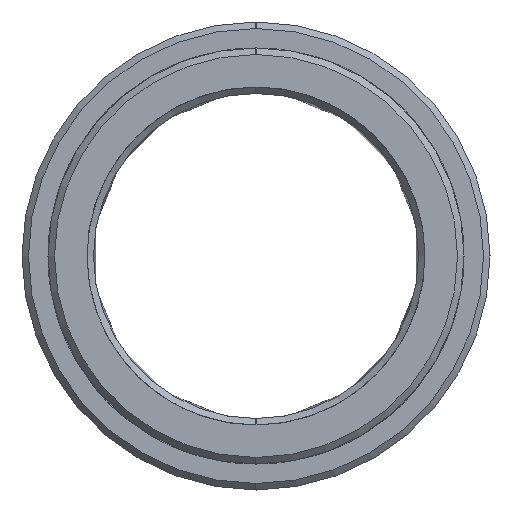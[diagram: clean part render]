
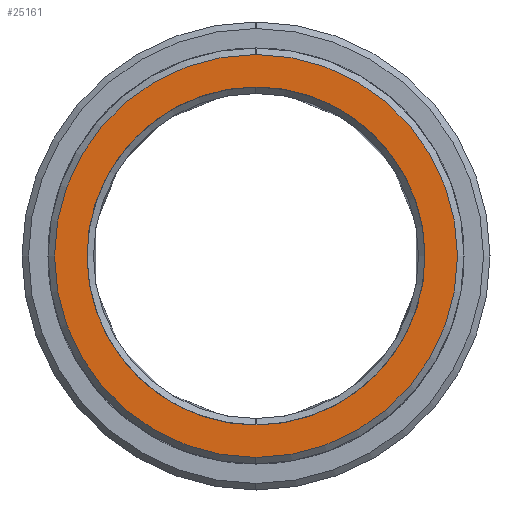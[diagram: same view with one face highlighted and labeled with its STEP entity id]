
A CAD part, left-side view. The second image highlights one B-rep face of the part: STEP entity #25161.
In plain terms, the highlighted planar face has unit normal (1, 0, 0).
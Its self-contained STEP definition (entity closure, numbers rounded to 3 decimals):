
#25078=CARTESIAN_POINT('Axis2P3D Location',(-18.,0.,0.)) ;
#25083=CARTESIAN_POINT('Axis2P3D Location',(-18.,0.,0.)) ;
#25087=CARTESIAN_POINT('Vertex',(-18.,0.,-15.5)) ;
#25089=CARTESIAN_POINT('Vertex',(-18.,0.,15.5)) ;
#25092=CARTESIAN_POINT('Axis2P3D Location',(-18.,0.,0.)) ;
#25102=CARTESIAN_POINT('Control Point',(-18.,0.,13.)) ;
#25103=CARTESIAN_POINT('Control Point',(-18.,1.236,13.)) ;
#25104=CARTESIAN_POINT('Control Point',(-18.,2.473,12.853)) ;
#25105=CARTESIAN_POINT('Control Point',(-18.,3.686,12.559)) ;
#25106=CARTESIAN_POINT('Control Point',(-18.,6.019,11.688)) ;
#25107=CARTESIAN_POINT('Control Point',(-18.,8.083,10.295)) ;
#25108=CARTESIAN_POINT('Control Point',(-18.,9.027,9.478)) ;
#25109=CARTESIAN_POINT('Control Point',(-18.,10.702,7.635)) ;
#25110=CARTESIAN_POINT('Control Point',(-18.,11.899,5.452)) ;
#25111=CARTESIAN_POINT('Control Point',(-18.,12.365,4.293)) ;
#25112=CARTESIAN_POINT('Control Point',(-18.,13.011,1.888)) ;
#25113=CARTESIAN_POINT('Control Point',(-18.,13.075,-0.601)) ;
#25114=CARTESIAN_POINT('Control Point',(-18.,12.958,-1.844)) ;
#25115=CARTESIAN_POINT('Control Point',(-18.,12.432,-4.278)) ;
#25116=CARTESIAN_POINT('Control Point',(-18.,11.349,-6.521)) ;
#25117=CARTESIAN_POINT('Control Point',(-18.,10.676,-7.572)) ;
#25118=CARTESIAN_POINT('Control Point',(-18.,9.093,-9.495)) ;
#25119=CARTESIAN_POINT('Control Point',(-18.,7.104,-10.993)) ;
#25120=CARTESIAN_POINT('Control Point',(-18.,6.025,-11.62)) ;
#25121=CARTESIAN_POINT('Control Point',(-18.,4.188,-12.411)) ;
#25122=CARTESIAN_POINT('Control Point',(-18.,2.243,-12.838)) ;
#25123=CARTESIAN_POINT('Control Point',(-18.,1.499,-12.946)) ;
#25124=CARTESIAN_POINT('Control Point',(-18.,0.749,-13.)) ;
#25125=CARTESIAN_POINT('Control Point',(-18.,0.,-13.)) ;
#25126=CARTESIAN_POINT('Vertex',(-18.,0.,13.)) ;
#25128=CARTESIAN_POINT('Vertex',(-18.,0.,-13.)) ;
#25132=CARTESIAN_POINT('Control Point',(-18.,0.,-13.)) ;
#25133=CARTESIAN_POINT('Control Point',(-18.,-1.236,-13.)) ;
#25134=CARTESIAN_POINT('Control Point',(-18.,-2.473,-12.853)) ;
#25135=CARTESIAN_POINT('Control Point',(-18.,-3.686,-12.559)) ;
#25136=CARTESIAN_POINT('Control Point',(-18.,-6.019,-11.688)) ;
#25137=CARTESIAN_POINT('Control Point',(-18.,-8.083,-10.295)) ;
#25138=CARTESIAN_POINT('Control Point',(-18.,-9.027,-9.478)) ;
#25139=CARTESIAN_POINT('Control Point',(-18.,-10.702,-7.635)) ;
#25140=CARTESIAN_POINT('Control Point',(-18.,-11.899,-5.452)) ;
#25141=CARTESIAN_POINT('Control Point',(-18.,-12.365,-4.293)) ;
#25142=CARTESIAN_POINT('Control Point',(-18.,-13.011,-1.888)) ;
#25143=CARTESIAN_POINT('Control Point',(-18.,-13.075,0.601)) ;
#25144=CARTESIAN_POINT('Control Point',(-18.,-12.958,1.844)) ;
#25145=CARTESIAN_POINT('Control Point',(-18.,-12.432,4.278)) ;
#25146=CARTESIAN_POINT('Control Point',(-18.,-11.349,6.521)) ;
#25147=CARTESIAN_POINT('Control Point',(-18.,-10.676,7.572)) ;
#25148=CARTESIAN_POINT('Control Point',(-18.,-9.093,9.495)) ;
#25149=CARTESIAN_POINT('Control Point',(-18.,-7.104,10.993)) ;
#25150=CARTESIAN_POINT('Control Point',(-18.,-6.025,11.62)) ;
#25151=CARTESIAN_POINT('Control Point',(-18.,-4.188,12.411)) ;
#25152=CARTESIAN_POINT('Control Point',(-18.,-2.243,12.838)) ;
#25153=CARTESIAN_POINT('Control Point',(-18.,-1.499,12.946)) ;
#25154=CARTESIAN_POINT('Control Point',(-18.,-0.749,13.)) ;
#25155=CARTESIAN_POINT('Control Point',(-18.,0.,13.)) ;
#25079=DIRECTION('Axis2P3D Direction',(1.,0.,0.)) ;
#25080=DIRECTION('Axis2P3D XDirection',(0.,1.,0.)) ;
#25084=DIRECTION('Axis2P3D Direction',(1.,0.,0.)) ;
#25093=DIRECTION('Axis2P3D Direction',(1.,0.,0.)) ;
#25081=AXIS2_PLACEMENT_3D('Plane Axis2P3D',#25078,#25079,#25080) ;
#25085=AXIS2_PLACEMENT_3D('Circle Axis2P3D',#25083,#25084,$) ;
#25094=AXIS2_PLACEMENT_3D('Circle Axis2P3D',#25092,#25093,$) ;
#25098=ORIENTED_EDGE('',*,*,#25091,.T.) ;
#25099=ORIENTED_EDGE('',*,*,#25096,.T.) ;
#25158=ORIENTED_EDGE('',*,*,#25130,.T.) ;
#25159=ORIENTED_EDGE('',*,*,#25156,.T.) ;
#25160=FACE_BOUND('',#25157,.T.) ;
#25161=ADVANCED_FACE('MANIFOLD_SOLID_BREP #13907',(#25100,#25160),#25082,.T.) ;
#25101=B_SPLINE_CURVE_WITH_KNOTS('',5,(#25102,#25103,#25104,#25105,#25106,#25107,#25108,#25109,#25110,#25111,#25112,#25113,#25114,#25115,#25116,#25117,#25118,#25119,#25120,#25121,#25122,#25123,#25124,#25125),.UNSPECIFIED.,.F.,.U.,(6,3,3,3,3,3,3,6),(0.,8.743,17.486,26.229,34.972,43.715,52.457,57.757),.UNSPECIFIED.) ;
#25131=B_SPLINE_CURVE_WITH_KNOTS('',5,(#25132,#25133,#25134,#25135,#25136,#25137,#25138,#25139,#25140,#25141,#25142,#25143,#25144,#25145,#25146,#25147,#25148,#25149,#25150,#25151,#25152,#25153,#25154,#25155),.UNSPECIFIED.,.F.,.U.,(6,3,3,3,3,3,3,6),(0.,8.743,17.486,26.229,34.972,43.715,52.457,57.757),.UNSPECIFIED.) ;
#25086=CIRCLE('generated circle',#25085,15.5) ;
#25095=CIRCLE('generated circle',#25094,15.5) ;
#25091=EDGE_CURVE('',#25088,#25090,#25086,.T.) ;
#25096=EDGE_CURVE('',#25090,#25088,#25095,.T.) ;
#25130=EDGE_CURVE('',#25127,#25129,#25101,.T.) ;
#25156=EDGE_CURVE('',#25129,#25127,#25131,.T.) ;
#25097=EDGE_LOOP('',(#25098,#25099)) ;
#25157=EDGE_LOOP('',(#25158,#25159)) ;
#25100=FACE_OUTER_BOUND('',#25097,.T.) ;
#25082=PLANE('Plane',#25081) ;
#25088=VERTEX_POINT('',#25087) ;
#25090=VERTEX_POINT('',#25089) ;
#25127=VERTEX_POINT('',#25126) ;
#25129=VERTEX_POINT('',#25128) ;
